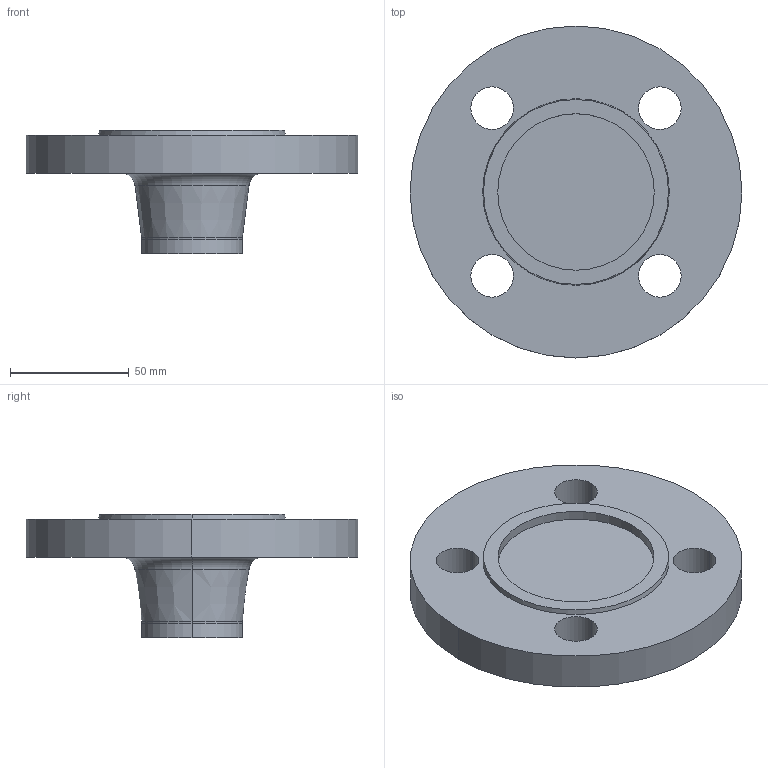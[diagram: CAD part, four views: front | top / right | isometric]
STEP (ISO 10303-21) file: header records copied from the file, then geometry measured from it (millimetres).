
FILE_DESCRIPTION (( 'STEP AP214' ), '1' );
FILE_NAME ('PN40 DN32 Type 21(ii) - Type F Face.STEP', '2018-12-29T23:43:13', ( '' ), ( '' ), 'SwSTEP 2.0', 'SolidWorks 2019', '' );
FILE_SCHEMA (( 'AUTOMOTIVE_DESIGN' ));
Length unit declared in the file: millimetre
Products named in the file (1): PN40 DN32 Type 21(ii) - Type F Face
Bounding box: 140 x 140 x 52 mm (x, y, z)
Volume: 281727.7 mm3; surface area: 44727.2 mm2
Topology: 1 solids, 1 shells, 27 faces, 60 edges, 38 vertices
Faces by surface type: cylinder 14, plane 5, torus 4, cone 4
Entity records: 818 total; most frequent: DIRECTION 158, CARTESIAN_POINT 126, ORIENTED_EDGE 120, AXIS2_PLACEMENT_3D 70, EDGE_CURVE 60, CIRCLE 42, VERTEX_POINT 38, EDGE_LOOP 38
